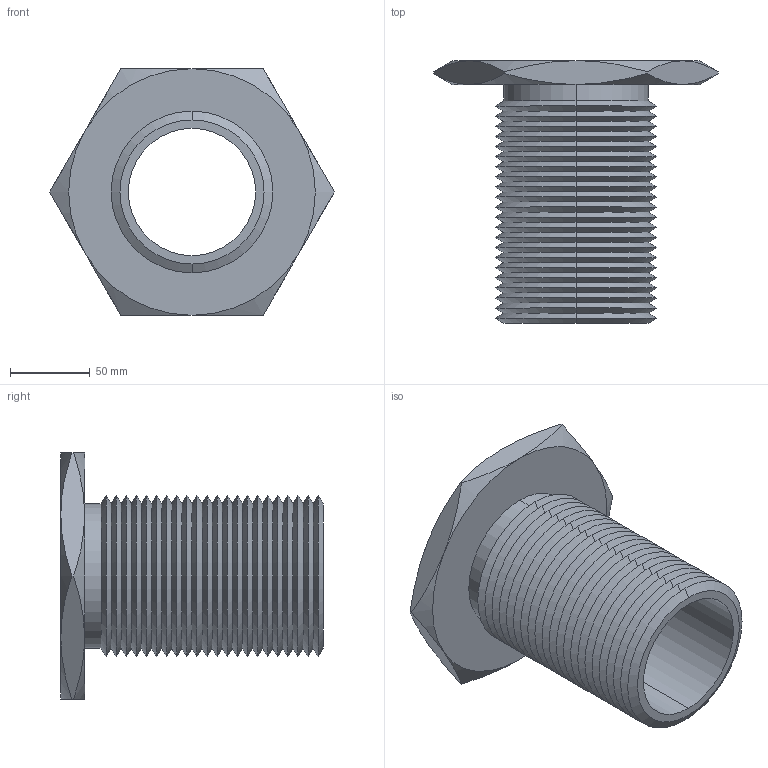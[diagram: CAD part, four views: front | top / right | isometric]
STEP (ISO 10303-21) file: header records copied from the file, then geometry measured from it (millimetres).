
FILE_DESCRIPTION (( 'STEP AP203' ), '1' );
FILE_NAME ('63302.W5400_M80x6.step', '2013-12-08T12:02:56', ( 'User' ), ( '' ), 'SwSTEP 2.0', 'SolidWorks 2009', '' );
FILE_SCHEMA (( 'CONFIG_CONTROL_DESIGN' ));
Length unit declared in the file: millimetre
Products named in the file (1): 63302.W5400_M80x6
Bounding box: 178.98 x 165 x 155 mm (x, y, z)
Volume: 550694.2 mm3; surface area: 165580.9 mm2
Topology: 1 solids, 1 shells, 115 faces, 234 edges, 122 vertices
Faces by surface type: cone 102, plane 9, cylinder 4
Entity records: 3179 total; most frequent: CARTESIAN_POINT 696, DIRECTION 552, ORIENTED_EDGE 468, EDGE_CURVE 234, AXIS2_PLACEMENT_3D 226, VERTEX_POINT 122, EDGE_LOOP 118, ADVANCED_FACE 115
